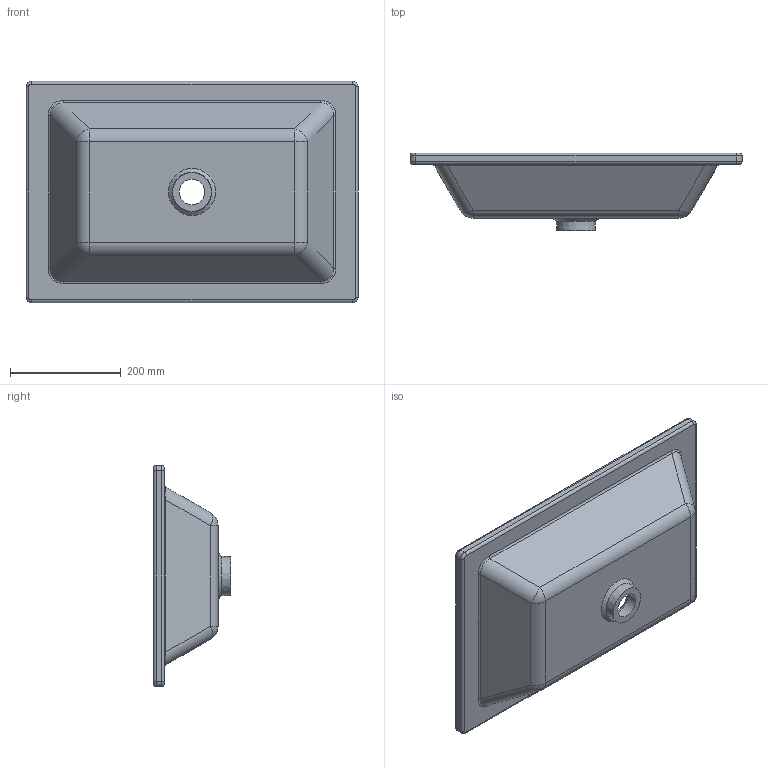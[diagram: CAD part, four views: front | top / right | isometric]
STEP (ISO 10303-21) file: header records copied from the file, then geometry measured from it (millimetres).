
FILE_DESCRIPTION (( 'STEP AP203' ), '1' );
FILE_NAME ('THI60_IN.STEP', '2017-12-13T11:22:56', ( '' ), ( '' ), 'SwSTEP 2.0', 'SolidWorks 2018', '' );
FILE_SCHEMA (( 'CONFIG_CONTROL_DESIGN' ));
Length unit declared in the file: millimetre
Products named in the file (1): THI60_IN
Bounding box: 600 x 140 x 400 mm (x, y, z)
Volume: 4421059 mm3; surface area: 671267 mm2
Topology: 1 solids, 1 shells, 83 faces, 185 edges, 99 vertices
Faces by surface type: cylinder 37, plane 17, torus 10, sphere 8, bspline 8, cone 3
Full cylindrical faces by diameter (mm): 46 x1
Entity records: 2515 total; most frequent: CARTESIAN_POINT 724, DIRECTION 384, ORIENTED_EDGE 336, EDGE_CURVE 168, AXIS2_PLACEMENT_3D 156, VERTEX_POINT 96, EDGE_LOOP 94, FACE_OUTER_BOUND 86
